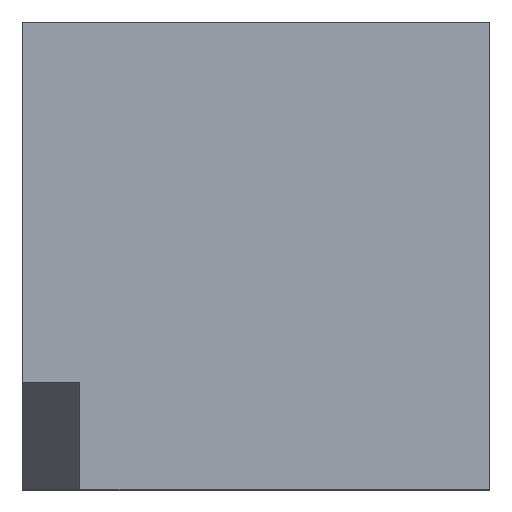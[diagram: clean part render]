
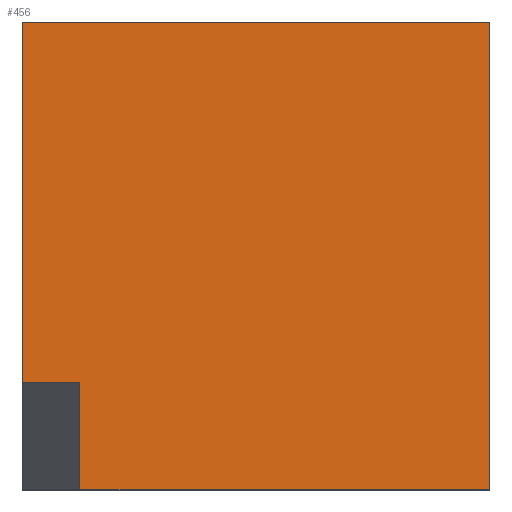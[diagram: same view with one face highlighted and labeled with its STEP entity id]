
A CAD part, top view. The second image highlights one B-rep face of the part: STEP entity #456.
In plain terms, the highlighted planar face has unit normal (0, 0, 1).
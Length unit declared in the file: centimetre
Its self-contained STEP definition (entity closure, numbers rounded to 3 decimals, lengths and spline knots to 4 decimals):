
#34 = FACE_OUTER_BOUND ( 'NONE', #683, .T. ) ;
#43 = CARTESIAN_POINT ( 'NONE',  ( 0., 0., 1000. ) ) ;
#106 = DIRECTION ( 'NONE',  ( -1., 0., 0. ) ) ;
#112 = DIRECTION ( 'NONE',  ( 0., 0., 1. ) ) ;
#124 = DIRECTION ( 'NONE',  ( 1., 0., 0. ) ) ;
#125 = CARTESIAN_POINT ( 'NONE',  ( 123.2605, 0., 1000. ) ) ;
#126 = EDGE_CURVE ( 'NONE', #543, #604, #899, .T. ) ;
#128 = CARTESIAN_POINT ( 'NONE',  ( 123.2605, 229.1214, 1000. ) ) ;
#137 = DIRECTION ( 'NONE',  ( -1., 0., 0. ) ) ;
#160 = ORIENTED_EDGE ( 'NONE', *, *, #126, .T. ) ;
#171 = VERTEX_POINT ( 'NONE', #641 ) ;
#196 = CARTESIAN_POINT ( 'NONE',  ( 0., 1000., 1000. ) ) ;
#205 = LINE ( 'NONE', #492, #344 ) ;
#212 = CARTESIAN_POINT ( 'NONE',  ( 123.2605, 229.1214, 1000. ) ) ;
#217 = VECTOR ( 'NONE', #825, 100. ) ;
#257 = VERTEX_POINT ( 'NONE', #212 ) ;
#265 = AXIS2_PLACEMENT_3D ( 'NONE', #43, #112, #885 ) ;
#267 = CARTESIAN_POINT ( 'NONE',  ( 0., 0., 1000. ) ) ;
#276 = EDGE_CURVE ( 'NONE', #257, #881, #497, .T. ) ;
#314 = ORIENTED_EDGE ( 'NONE', *, *, #722, .T. ) ;
#323 = CARTESIAN_POINT ( 'NONE',  ( 0., 1000., 1000. ) ) ;
#344 = VECTOR ( 'NONE', #599, 100. ) ;
#422 = VECTOR ( 'NONE', #137, 100. ) ;
#456 = ADVANCED_FACE ( 'NONE', ( #34 ), #537, .T. ) ;
#492 = CARTESIAN_POINT ( 'NONE',  ( 1000., 1000., 1000. ) ) ;
#497 = LINE ( 'NONE', #776, #422 ) ;
#514 = VERTEX_POINT ( 'NONE', #196 ) ;
#523 = ORIENTED_EDGE ( 'NONE', *, *, #781, .T. ) ;
#537 = PLANE ( 'NONE',  #265 ) ;
#538 = EDGE_CURVE ( 'NONE', #171, #514, #625, .T. ) ;
#543 = VERTEX_POINT ( 'NONE', #125 ) ;
#561 = EDGE_CURVE ( 'NONE', #257, #543, #752, .T. ) ;
#599 = DIRECTION ( 'NONE',  ( 0., 1., 0. ) ) ;
#604 = VERTEX_POINT ( 'NONE', #766 ) ;
#625 = LINE ( 'NONE', #903, #635 ) ;
#635 = VECTOR ( 'NONE', #106, 100. ) ;
#641 = CARTESIAN_POINT ( 'NONE',  ( 1000., 1000., 1000. ) ) ;
#683 = EDGE_LOOP ( 'NONE', ( #689, #160, #523, #802, #314, #754 ) ) ;
#689 = ORIENTED_EDGE ( 'NONE', *, *, #561, .T. ) ;
#701 = VECTOR ( 'NONE', #124, 100. ) ;
#722 = EDGE_CURVE ( 'NONE', #514, #881, #753, .T. ) ;
#752 = LINE ( 'NONE', #128, #217 ) ;
#753 = LINE ( 'NONE', #323, #761 ) ;
#754 = ORIENTED_EDGE ( 'NONE', *, *, #276, .F. ) ;
#761 = VECTOR ( 'NONE', #838, 100. ) ;
#766 = CARTESIAN_POINT ( 'NONE',  ( 1000., 0., 1000. ) ) ;
#776 = CARTESIAN_POINT ( 'NONE',  ( 123.2605, 229.1214, 1000. ) ) ;
#781 = EDGE_CURVE ( 'NONE', #604, #171, #205, .T. ) ;
#802 = ORIENTED_EDGE ( 'NONE', *, *, #538, .T. ) ;
#825 = DIRECTION ( 'NONE',  ( 0., -1., 0. ) ) ;
#838 = DIRECTION ( 'NONE',  ( 0., -1., 0. ) ) ;
#844 = CARTESIAN_POINT ( 'NONE',  ( 0., 229.1214, 1000. ) ) ;
#881 = VERTEX_POINT ( 'NONE', #844 ) ;
#885 = DIRECTION ( 'NONE',  ( 1., 0., 0. ) ) ;
#899 = LINE ( 'NONE', #267, #701 ) ;
#903 = CARTESIAN_POINT ( 'NONE',  ( 0., 1000., 1000. ) ) ;
